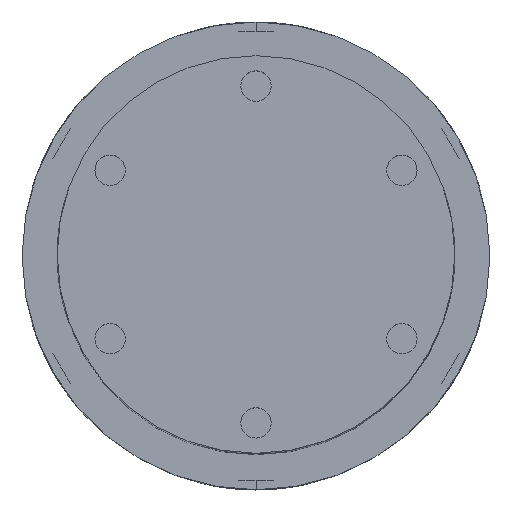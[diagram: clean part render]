
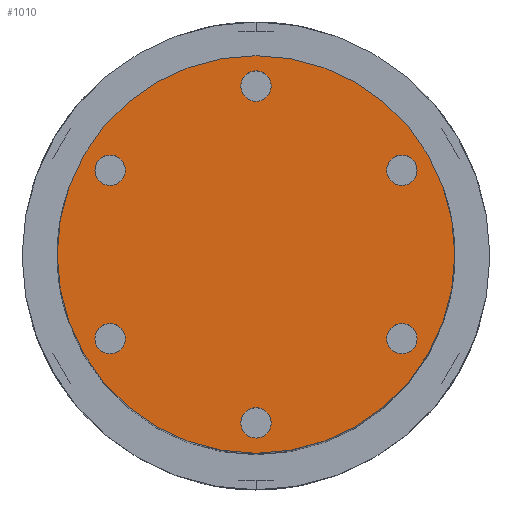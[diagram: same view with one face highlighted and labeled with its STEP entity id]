
A CAD part, top view. The second image highlights one B-rep face of the part: STEP entity #1010.
In plain terms, the highlighted planar face has unit normal (0, 0, 1).
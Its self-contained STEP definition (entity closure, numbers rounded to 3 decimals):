
#4 = ORIENTED_EDGE ( 'NONE', *, *, #4300, .F. ) ;
#152 = EDGE_CURVE ( 'NONE', #3264, #469, #2553, .T. ) ;
#190 = CARTESIAN_POINT ( 'NONE',  ( -27.927, 18., 201. ) ) ;
#224 = VERTEX_POINT ( 'NONE', #2064 ) ;
#234 = AXIS2_PLACEMENT_3D ( 'NONE', #4543, #1918, #4982 ) ;
#275 = AXIS2_PLACEMENT_3D ( 'NONE', #311, #3314, #734 ) ;
#288 = EDGE_LOOP ( 'NONE', ( #3528, #1729 ) ) ;
#311 = CARTESIAN_POINT ( 'NONE',  ( 0., -36., 201. ) ) ;
#315 = DIRECTION ( 'NONE',  ( 0., 0., 1. ) ) ;
#360 = DIRECTION ( 'NONE',  ( 0., 0., 1. ) ) ;
#398 = FACE_OUTER_BOUND ( 'NONE', #766, .T. ) ;
#469 = VERTEX_POINT ( 'NONE', #190 ) ;
#516 = ORIENTED_EDGE ( 'NONE', *, *, #4521, .F. ) ;
#576 = CIRCLE ( 'NONE', #4308, 3.25 ) ;
#622 = CARTESIAN_POINT ( 'NONE',  ( 0., 0., 201. ) ) ;
#667 = CIRCLE ( 'NONE', #4436, 3.25 ) ;
#725 = DIRECTION ( 'NONE',  ( 0., 0., 1. ) ) ;
#730 = VERTEX_POINT ( 'NONE', #1772 ) ;
#734 = DIRECTION ( 'NONE',  ( -1., 0., 0. ) ) ;
#766 = EDGE_LOOP ( 'NONE', ( #3589, #5322 ) ) ;
#875 = VERTEX_POINT ( 'NONE', #983 ) ;
#929 = CARTESIAN_POINT ( 'NONE',  ( -31.177, 18., 201. ) ) ;
#983 = CARTESIAN_POINT ( 'NONE',  ( -27.927, -18., 201. ) ) ;
#1010 = ADVANCED_FACE ( 'NONE', ( #5013, #1655, #3963, #3822, #2672, #1530, #398 ), #2428, .T. ) ;
#1020 = CARTESIAN_POINT ( 'NONE',  ( 31.177, 18., 201. ) ) ;
#1033 = DIRECTION ( 'NONE',  ( 1., 0., 0. ) ) ;
#1039 = CARTESIAN_POINT ( 'NONE',  ( 31.177, -18., 201. ) ) ;
#1136 = ORIENTED_EDGE ( 'NONE', *, *, #3011, .F. ) ;
#1201 = ORIENTED_EDGE ( 'NONE', *, *, #2161, .F. ) ;
#1235 = CIRCLE ( 'NONE', #3103, 3.25 ) ;
#1247 = DIRECTION ( 'NONE',  ( 0., 0., 1. ) ) ;
#1351 = DIRECTION ( 'NONE',  ( 0.5, 0.866, 0. ) ) ;
#1453 = DIRECTION ( 'NONE',  ( 0.5, -0.866, 0. ) ) ;
#1475 = DIRECTION ( 'NONE',  ( -0.5, -0.866, 0. ) ) ;
#1523 = CIRCLE ( 'NONE', #275, 3.25 ) ;
#1530 = FACE_BOUND ( 'NONE', #5113, .T. ) ;
#1572 = AXIS2_PLACEMENT_3D ( 'NONE', #1637, #4690, #2076 ) ;
#1585 = DIRECTION ( 'NONE',  ( 0., 0., 1. ) ) ;
#1598 = EDGE_CURVE ( 'NONE', #4257, #4517, #667, .T. ) ;
#1613 = EDGE_LOOP ( 'NONE', ( #4, #2430 ) ) ;
#1633 = CARTESIAN_POINT ( 'NONE',  ( -34.427, -18., 201. ) ) ;
#1637 = CARTESIAN_POINT ( 'NONE',  ( 31.177, -18., 201. ) ) ;
#1655 = FACE_BOUND ( 'NONE', #3013, .T. ) ;
#1689 = EDGE_CURVE ( 'NONE', #2082, #4209, #1523, .T. ) ;
#1690 = DIRECTION ( 'NONE',  ( 0., 0., 1. ) ) ;
#1723 = CARTESIAN_POINT ( 'NONE',  ( 3.25, 36., 201. ) ) ;
#1729 = ORIENTED_EDGE ( 'NONE', *, *, #2590, .F. ) ;
#1766 = CARTESIAN_POINT ( 'NONE',  ( 34.427, 18., 201. ) ) ;
#1772 = CARTESIAN_POINT ( 'NONE',  ( -3.25, 36., 201. ) ) ;
#1918 = DIRECTION ( 'NONE',  ( 0., 0., 1. ) ) ;
#2003 = ORIENTED_EDGE ( 'NONE', *, *, #152, .F. ) ;
#2064 = CARTESIAN_POINT ( 'NONE',  ( -42.5, 0., 201. ) ) ;
#2076 = DIRECTION ( 'NONE',  ( -0.5, -0.866, 0. ) ) ;
#2082 = VERTEX_POINT ( 'NONE', #5004 ) ;
#2150 = AXIS2_PLACEMENT_3D ( 'NONE', #5157, #2530, #5589 ) ;
#2161 = EDGE_CURVE ( 'NONE', #2821, #730, #5404, .T. ) ;
#2202 = VERTEX_POINT ( 'NONE', #1633 ) ;
#2249 = AXIS2_PLACEMENT_3D ( 'NONE', #5143, #2516, #5575 ) ;
#2348 = CARTESIAN_POINT ( 'NONE',  ( 27.927, 18., 201. ) ) ;
#2423 = ORIENTED_EDGE ( 'NONE', *, *, #2568, .F. ) ;
#2428 = PLANE ( 'NONE',  #4654 ) ;
#2430 = ORIENTED_EDGE ( 'NONE', *, *, #1689, .F. ) ;
#2516 = DIRECTION ( 'NONE',  ( 0., 0., 1. ) ) ;
#2530 = DIRECTION ( 'NONE',  ( 0., 0., 1. ) ) ;
#2553 = CIRCLE ( 'NONE', #4192, 3.25 ) ;
#2568 = EDGE_CURVE ( 'NONE', #4517, #4257, #5194, .T. ) ;
#2590 = EDGE_CURVE ( 'NONE', #5230, #5255, #5066, .T. ) ;
#2613 = EDGE_LOOP ( 'NONE', ( #516, #2003 ) ) ;
#2672 = FACE_BOUND ( 'NONE', #2916, .T. ) ;
#2821 = VERTEX_POINT ( 'NONE', #1723 ) ;
#2876 = CARTESIAN_POINT ( 'NONE',  ( -31.177, -18., 201. ) ) ;
#2916 = EDGE_LOOP ( 'NONE', ( #2423, #3520 ) ) ;
#2928 = CARTESIAN_POINT ( 'NONE',  ( 0., 36., 201. ) ) ;
#2965 = EDGE_CURVE ( 'NONE', #5255, #5230, #4855, .T. ) ;
#3011 = EDGE_CURVE ( 'NONE', #730, #2821, #4722, .T. ) ;
#3013 = EDGE_LOOP ( 'NONE', ( #4629, #3402 ) ) ;
#3103 = AXIS2_PLACEMENT_3D ( 'NONE', #2876, #315, #3315 ) ;
#3106 = CARTESIAN_POINT ( 'NONE',  ( 27.927, -18., 201. ) ) ;
#3113 = CARTESIAN_POINT ( 'NONE',  ( -34.427, 18., 201. ) ) ;
#3194 = CARTESIAN_POINT ( 'NONE',  ( 42.5, 0., 201. ) ) ;
#3264 = VERTEX_POINT ( 'NONE', #3113 ) ;
#3308 = CARTESIAN_POINT ( 'NONE',  ( 0., 0., 201. ) ) ;
#3314 = DIRECTION ( 'NONE',  ( 0., 0., 1. ) ) ;
#3315 = DIRECTION ( 'NONE',  ( -0.5, 0.866, 0. ) ) ;
#3364 = DIRECTION ( 'NONE',  ( 1., 0., 0. ) ) ;
#3372 = EDGE_CURVE ( 'NONE', #3392, #224, #5537, .T. ) ;
#3392 = VERTEX_POINT ( 'NONE', #3194 ) ;
#3402 = ORIENTED_EDGE ( 'NONE', *, *, #3619, .F. ) ;
#3409 = EDGE_CURVE ( 'NONE', #224, #3392, #5393, .T. ) ;
#3520 = ORIENTED_EDGE ( 'NONE', *, *, #1598, .F. ) ;
#3528 = ORIENTED_EDGE ( 'NONE', *, *, #2965, .F. ) ;
#3547 = CARTESIAN_POINT ( 'NONE',  ( 34.427, -18., 201. ) ) ;
#3589 = ORIENTED_EDGE ( 'NONE', *, *, #3409, .T. ) ;
#3618 = DIRECTION ( 'NONE',  ( 0., 0., 1. ) ) ;
#3619 = EDGE_CURVE ( 'NONE', #2202, #875, #1235, .T. ) ;
#3645 = CARTESIAN_POINT ( 'NONE',  ( 3.25, -36., 201. ) ) ;
#3732 = DIRECTION ( 'NONE',  ( 1., 0., 0. ) ) ;
#3822 = FACE_BOUND ( 'NONE', #288, .T. ) ;
#3840 = DIRECTION ( 'NONE',  ( 0.5, 0.866, 0. ) ) ;
#3951 = DIRECTION ( 'NONE',  ( 0., 0., 1. ) ) ;
#3963 = FACE_BOUND ( 'NONE', #1613, .T. ) ;
#4056 = DIRECTION ( 'NONE',  ( 0., 0., 1. ) ) ;
#4072 = DIRECTION ( 'NONE',  ( 0., 0., 1. ) ) ;
#4129 = AXIS2_PLACEMENT_3D ( 'NONE', #1020, #4056, #1453 ) ;
#4192 = AXIS2_PLACEMENT_3D ( 'NONE', #4293, #1247, #3840 ) ;
#4208 = CARTESIAN_POINT ( 'NONE',  ( 0., -36., 201. ) ) ;
#4209 = VERTEX_POINT ( 'NONE', #3645 ) ;
#4220 = AXIS2_PLACEMENT_3D ( 'NONE', #2928, #360, #3364 ) ;
#4257 = VERTEX_POINT ( 'NONE', #2348 ) ;
#4293 = CARTESIAN_POINT ( 'NONE',  ( -31.177, 18., 201. ) ) ;
#4300 = EDGE_CURVE ( 'NONE', #4209, #2082, #4434, .T. ) ;
#4308 = AXIS2_PLACEMENT_3D ( 'NONE', #929, #3951, #1351 ) ;
#4310 = CARTESIAN_POINT ( 'NONE',  ( 31.177, 18., 201. ) ) ;
#4411 = EDGE_CURVE ( 'NONE', #875, #2202, #5316, .T. ) ;
#4434 = CIRCLE ( 'NONE', #5294, 3.25 ) ;
#4436 = AXIS2_PLACEMENT_3D ( 'NONE', #4310, #1690, #4754 ) ;
#4517 = VERTEX_POINT ( 'NONE', #1766 ) ;
#4521 = EDGE_CURVE ( 'NONE', #469, #3264, #576, .T. ) ;
#4543 = CARTESIAN_POINT ( 'NONE',  ( 0., 0., 201. ) ) ;
#4629 = ORIENTED_EDGE ( 'NONE', *, *, #4411, .F. ) ;
#4640 = DIRECTION ( 'NONE',  ( -1., 0., 0. ) ) ;
#4654 = AXIS2_PLACEMENT_3D ( 'NONE', #3308, #725, #3732 ) ;
#4690 = DIRECTION ( 'NONE',  ( 0., 0., 1. ) ) ;
#4720 = AXIS2_PLACEMENT_3D ( 'NONE', #1039, #4072, #1475 ) ;
#4722 = CIRCLE ( 'NONE', #2150, 3.25 ) ;
#4754 = DIRECTION ( 'NONE',  ( 0.5, -0.866, 0. ) ) ;
#4855 = CIRCLE ( 'NONE', #1572, 3.25 ) ;
#4981 = AXIS2_PLACEMENT_3D ( 'NONE', #622, #3618, #1033 ) ;
#4982 = DIRECTION ( 'NONE',  ( 1., 0., 0. ) ) ;
#5004 = CARTESIAN_POINT ( 'NONE',  ( -3.25, -36., 201. ) ) ;
#5013 = FACE_BOUND ( 'NONE', #2613, .T. ) ;
#5066 = CIRCLE ( 'NONE', #4720, 3.25 ) ;
#5113 = EDGE_LOOP ( 'NONE', ( #1201, #1136 ) ) ;
#5143 = CARTESIAN_POINT ( 'NONE',  ( -31.177, -18., 201. ) ) ;
#5157 = CARTESIAN_POINT ( 'NONE',  ( 0., 36., 201. ) ) ;
#5194 = CIRCLE ( 'NONE', #4129, 3.25 ) ;
#5230 = VERTEX_POINT ( 'NONE', #3106 ) ;
#5255 = VERTEX_POINT ( 'NONE', #3547 ) ;
#5294 = AXIS2_PLACEMENT_3D ( 'NONE', #4208, #1585, #4640 ) ;
#5316 = CIRCLE ( 'NONE', #2249, 3.25 ) ;
#5322 = ORIENTED_EDGE ( 'NONE', *, *, #3372, .T. ) ;
#5393 = CIRCLE ( 'NONE', #234, 42.5 ) ;
#5404 = CIRCLE ( 'NONE', #4220, 3.25 ) ;
#5537 = CIRCLE ( 'NONE', #4981, 42.5 ) ;
#5575 = DIRECTION ( 'NONE',  ( -0.5, 0.866, 0. ) ) ;
#5589 = DIRECTION ( 'NONE',  ( 1., 0., 0. ) ) ;
